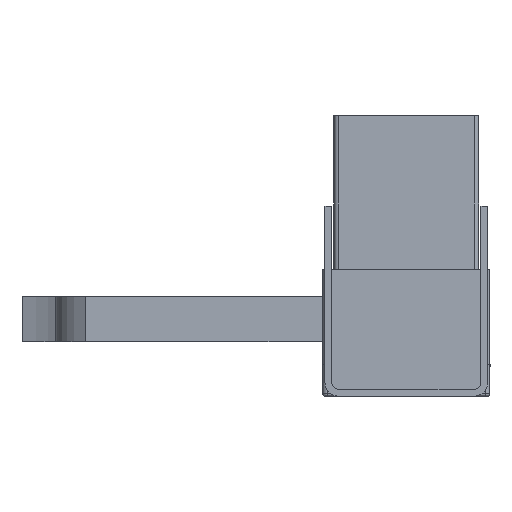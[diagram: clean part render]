
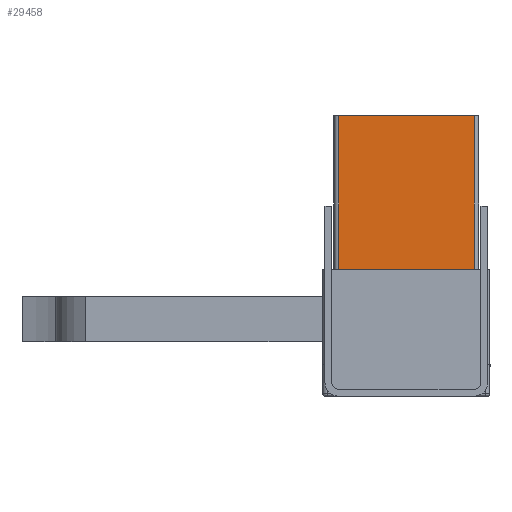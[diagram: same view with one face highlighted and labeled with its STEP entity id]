
A CAD part, front view. The second image highlights one B-rep face of the part: STEP entity #29458.
In plain terms, the highlighted planar face has unit normal (0, -1, 0).
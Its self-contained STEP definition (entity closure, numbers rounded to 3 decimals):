
#3770 = AXIS2_PLACEMENT_3D ( 'NONE', #32828, #94110, #42977 ) ;
#4739 = PLANE ( 'NONE',  #3770 ) ;
#14157 = EDGE_LOOP ( 'NONE', ( #40837, #16843, #19822, #23802 ) ) ;
#15496 = VERTEX_POINT ( 'NONE', #18415 ) ;
#15970 = CARTESIAN_POINT ( 'NONE',  ( -15., -206., 0. ) ) ;
#16843 = ORIENTED_EDGE ( 'NONE', *, *, #81166, .T. ) ;
#18018 = VECTOR ( 'NONE', #59229, 1000. ) ;
#18415 = CARTESIAN_POINT ( 'NONE',  ( 15., -206., 1. ) ) ;
#19822 = ORIENTED_EDGE ( 'NONE', *, *, #39512, .T. ) ;
#20637 = LINE ( 'NONE', #15970, #71969 ) ;
#23802 = ORIENTED_EDGE ( 'NONE', *, *, #65732, .T. ) ;
#29458 = ADVANCED_FACE ( 'NONE', ( #77996 ), #4739, .T. ) ;
#29887 = CARTESIAN_POINT ( 'NONE',  ( 15., -206., 0. ) ) ;
#32221 = LINE ( 'NONE', #47498, #56205 ) ;
#32376 = LINE ( 'NONE', #85984, #59763 ) ;
#32828 = CARTESIAN_POINT ( 'NONE',  ( 16., -206., 0. ) ) ;
#33949 = DIRECTION ( 'NONE',  ( 1., 0., 0. ) ) ;
#39512 = EDGE_CURVE ( 'NONE', #46049, #15496, #32376, .T. ) ;
#40837 = ORIENTED_EDGE ( 'NONE', *, *, #56097, .T. ) ;
#41406 = DIRECTION ( 'NONE',  ( -1., 0., 0. ) ) ;
#42977 = DIRECTION ( 'NONE',  ( 0., 0., -1. ) ) ;
#45527 = VERTEX_POINT ( 'NONE', #67363 ) ;
#46049 = VERTEX_POINT ( 'NONE', #88714 ) ;
#47498 = CARTESIAN_POINT ( 'NONE',  ( 16., -206., 40. ) ) ;
#56097 = EDGE_CURVE ( 'NONE', #45527, #73439, #32221, .T. ) ;
#56205 = VECTOR ( 'NONE', #41406, 1000. ) ;
#59131 = LINE ( 'NONE', #29887, #18018 ) ;
#59229 = DIRECTION ( 'NONE',  ( 0., 0., 1. ) ) ;
#59763 = VECTOR ( 'NONE', #33949, 1000. ) ;
#65732 = EDGE_CURVE ( 'NONE', #15496, #45527, #59131, .T. ) ;
#67363 = CARTESIAN_POINT ( 'NONE',  ( 15., -206., 40. ) ) ;
#71969 = VECTOR ( 'NONE', #74343, 1000. ) ;
#73439 = VERTEX_POINT ( 'NONE', #88320 ) ;
#74343 = DIRECTION ( 'NONE',  ( 0., 0., -1. ) ) ;
#77996 = FACE_OUTER_BOUND ( 'NONE', #14157, .T. ) ;
#81166 = EDGE_CURVE ( 'NONE', #73439, #46049, #20637, .T. ) ;
#85984 = CARTESIAN_POINT ( 'NONE',  ( 16., -206., 1. ) ) ;
#88320 = CARTESIAN_POINT ( 'NONE',  ( -15., -206., 40. ) ) ;
#88714 = CARTESIAN_POINT ( 'NONE',  ( -15., -206., 1. ) ) ;
#94110 = DIRECTION ( 'NONE',  ( 0., -1., 0. ) ) ;
